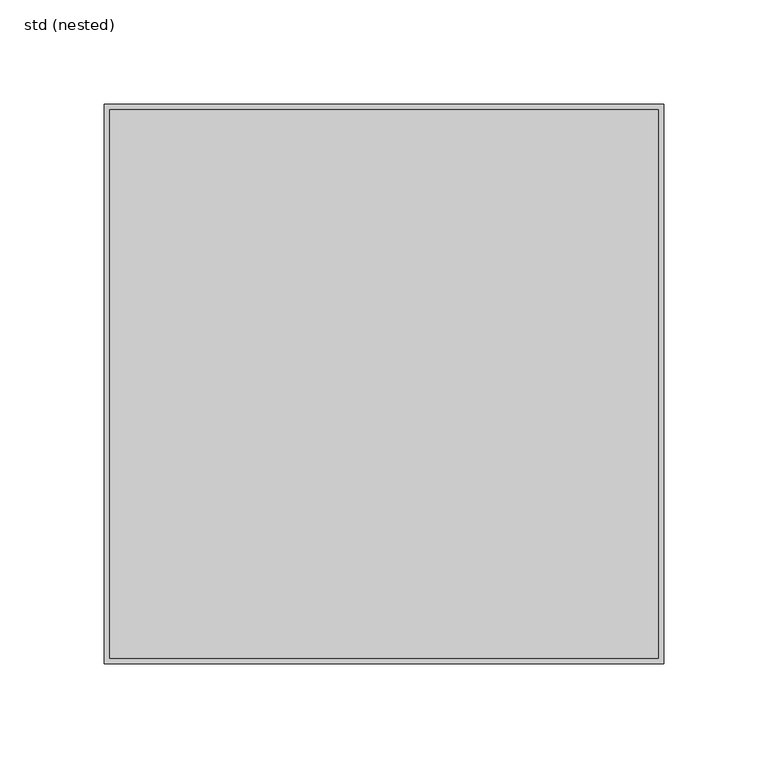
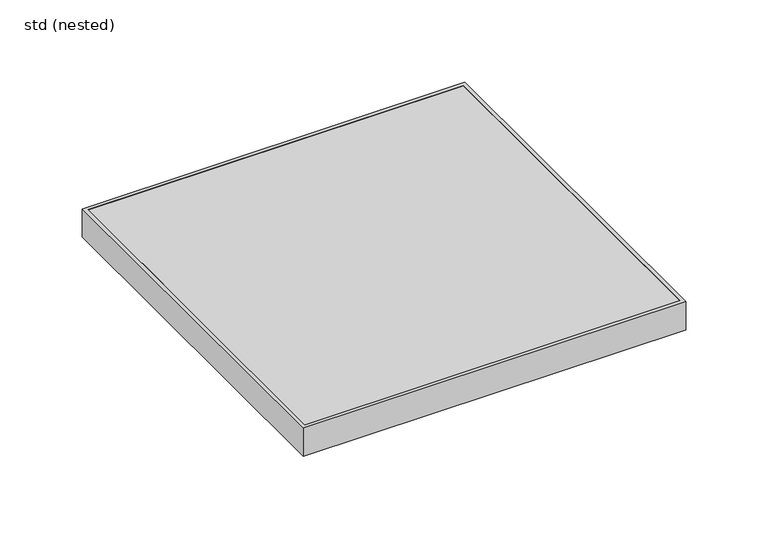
"""IFC4 building model written with IfcOpenShell, lengths in millimetres: sanitary terminal geometry, ZZZ_do not use_PF_ST_UN_square grating for hygienic gully_ACO : std (nested)."""

import ifcopenshell
import ifcopenshell.guid

model = None  # the IFC model being written
_history = None  # IfcOwnerHistory: only IFC2X3 demands one
_inside = {}  # id of a spatial element -> (the spatial element, [elements in it])
_under = {}  # id of a project, library or spatial element -> (it, [spatial elements below it])
_declared = {}  # id of a project -> (the project, [libraries it declares])
_typed = {}  # id of a type object -> (the type object, [elements of that type])
_made_of = {}  # id of a material, layer set ... -> (it, [elements and type objects made of it])


def new_model(schema):
    """Start an empty IFC model of exactly this schema.

    Asked for "IFC4X3", IfcOpenShell would pick the latest addendum, in which some entities
    have other attributes; the version numbers below select the first issue.
    IFC2X3 requires an IfcOwnerHistory on every rooted entity: one is made here for all.
    """
    global model, _history
    if schema == "IFC4X3":
        model = ifcopenshell.file(schema_version=(4, 3, 0, 0))
    else:
        model = ifcopenshell.file(schema=schema)
    _inside.clear()
    _under.clear()
    _declared.clear()
    _typed.clear()
    _made_of.clear()
    _history = None
    if model.schema == "IFC2X3":
        org = make("IfcOrganization", Name="unknown")
        user = make(
            "IfcPersonAndOrganization",
            ThePerson=make("IfcPerson", FamilyName="unknown"),
            TheOrganization=org,
        )
        app = make(
            "IfcApplication",
            ApplicationDeveloper=org,
            Version="unknown",
            ApplicationFullName="unknown",
            ApplicationIdentifier="unknown",
        )
        _history = make(
            "IfcOwnerHistory",
            OwningUser=user,
            OwningApplication=app,
            ChangeAction="ADDED",
            CreationDate=0,
        )
    return model


def make(cls, **values):
    """One entity of the class cls with the attributes given. An attribute that is None is left unset."""
    return model.create_entity(
        cls, **{name: value for name, value in values.items() if value is not None}
    )


def rooted(cls, **values):
    """An entity with a GlobalId (a new one), such as an element, a storey or a relation."""
    return make(cls, GlobalId=ifcopenshell.guid.new(), OwnerHistory=_history, **values)


def si_unit(unit_type, name, prefix=None):
    """IfcSIUnit, for example si_unit("LENGTHUNIT", "METRE", prefix="MILLI")."""
    return make("IfcSIUnit", UnitType=unit_type, Prefix=prefix, Name=name)


def assignment(units):
    """IfcUnitAssignment: the units of a project."""
    return None if units is None else make("IfcUnitAssignment", Units=units)


def point(xyz):
    """IfcCartesianPoint."""
    return None if xyz is None else make("IfcCartesianPoint", Coordinates=xyz)


def direction(xyz):
    """IfcDirection."""
    return None if xyz is None else make("IfcDirection", DirectionRatios=xyz)


def frame(location, z_axis=None, x_axis=None):
    """IfcAxis2Placement3D, a coordinate frame: its origin and axes. An axis left out is left unset."""
    return make(
        "IfcAxis2Placement3D",
        Location=point(location),
        Axis=direction(z_axis),
        RefDirection=direction(x_axis),
    )


def origin():
    """The frame at (0, 0, 0) with its axes left unset."""
    return frame((0.0, 0.0, 0.0))


def place(relative_to, where):
    """IfcLocalPlacement: puts the frame where relative to a parent placement (None: the world)."""
    return make(
        "IfcLocalPlacement", PlacementRelTo=relative_to, RelativePlacement=where
    )


def context(
    kind, dimensions, precision=None, world=None, true_north=None, identifier=None
):
    """IfcGeometricRepresentationContext, for example the 3D "Model" context."""
    return make(
        "IfcGeometricRepresentationContext",
        ContextIdentifier=identifier,
        ContextType=kind,
        CoordinateSpaceDimension=dimensions,
        Precision=precision,
        WorldCoordinateSystem=world,
        TrueNorth=true_north,
    )


def project(units=None, contexts=None):
    """IfcProject with its units and contexts."""
    return rooted(
        "IfcProject",
        Name="project",
        RepresentationContexts=contexts,
        UnitsInContext=assignment(units),
    )


def spatial(cls, under=None, at=None, **own):
    """A site, building, storey or space (cls), placed at a placement, below another one or the project."""
    s = rooted(cls, ObjectPlacement=at, **own)
    if under is not None:
        _under.setdefault(under.id(), (under, []))[1].append(s)
    return s


def polyline(points):
    """IfcPolyline through the points."""
    return make("IfcPolyline", Points=[point(p) for p in points])


def outline(outer, holes=None, kind="AREA"):
    """IfcArbitraryClosedProfileDef: a profile drawn as a closed curve; with holes, ...WithVoids."""
    if holes is None:
        return make("IfcArbitraryClosedProfileDef", ProfileType=kind, OuterCurve=outer)
    return make(
        "IfcArbitraryProfileDefWithVoids",
        ProfileType=kind,
        OuterCurve=outer,
        InnerCurves=holes,
    )


def extrude(swept, where, along, depth):
    """IfcExtrudedAreaSolid: the profile swept, set in the frame where, extruded along a direction by depth."""
    return make(
        "IfcExtrudedAreaSolid",
        SweptArea=swept,
        Position=where,
        ExtrudedDirection=direction(along),
        Depth=depth,
    )


def shape(context_of_items, identifier, shape_type, items):
    """IfcShapeRepresentation: the items that make up one representation, for example the "Body"."""
    return make(
        "IfcShapeRepresentation",
        ContextOfItems=context_of_items,
        RepresentationIdentifier=identifier,
        RepresentationType=shape_type,
        Items=items,
    )


def source(mapping_origin, context_of_items, identifier, shape_type, items):
    """IfcRepresentationMap: a shape defined once, which mapped items show again and again."""
    return make(
        "IfcRepresentationMap",
        MappingOrigin=mapping_origin,
        MappedRepresentation=shape(context_of_items, identifier, shape_type, items),
    )


def transform(
    local_origin,
    x_axis=None,
    y_axis=None,
    z_axis=None,
    scale=None,
    scale2=None,
    scale3=None,
    uniform=True,
):
    """IfcCartesianTransformationOperator3D, or its non-uniform kind. x_axis, y_axis, z_axis: its Axis1, 2, 3."""
    if uniform:
        return make(
            "IfcCartesianTransformationOperator3D",
            Axis1=direction(x_axis),
            Axis2=direction(y_axis),
            LocalOrigin=point(local_origin),
            Scale=scale,
            Axis3=direction(z_axis),
        )
    return make(
        "IfcCartesianTransformationOperator3DnonUniform",
        Axis1=direction(x_axis),
        Axis2=direction(y_axis),
        LocalOrigin=point(local_origin),
        Scale=scale,
        Axis3=direction(z_axis),
        Scale2=scale2,
        Scale3=scale3,
    )


def mapped(mapping_source, mapping_target):
    """IfcMappedItem: shows the shape of a source again, moved by a transform."""
    return make(
        "IfcMappedItem", MappingSource=mapping_source, MappingTarget=mapping_target
    )


def made_of(thing, what):
    """Note that an element or type object is made of a material, layer set ...; save() writes the relation."""
    if what is not None:
        _made_of.setdefault(what.id(), (what, []))[1].append(thing)
    return thing


def element(
    cls,
    number,
    at=None,
    inside=None,
    cuts=None,
    type_object=None,
    material=None,
    context=None,
    identifier="Body",
    shape_type=None,
    held_by="IfcProductDefinitionShape",
    body=None,
    shapes=None,
    **own,
):
    """One element of the class cls, such as IfcWall. Its Tag is "e" and its number.

    at: its placement. inside: the storey or other place that contains it. cuts: it is an
    opening in that element (IfcRelVoidsElement). A single representation is given by context,
    identifier, shape_type and body (its items); several are given by shapes. held_by: the class
    of the entity that holds the representations. save() writes the other relations.
    """
    e = rooted(cls, Tag="e%d" % number, ObjectPlacement=at, **own)
    if body is not None:
        shapes = [shape(context, identifier, shape_type, body)]
    if shapes is not None:
        e.Representation = make(held_by, Representations=shapes)
    if inside is not None:
        _inside.setdefault(inside.id(), (inside, []))[1].append(e)
    if cuts is not None:
        rooted(
            "IfcRelVoidsElement", RelatingBuildingElement=cuts, RelatedOpeningElement=e
        )
    if type_object is not None:
        _typed.setdefault(type_object.id(), (type_object, []))[1].append(e)
    return made_of(e, material)


def aggregate(whole, parts):
    """IfcRelAggregates: a whole, such as a stair, and the parts it consists of."""
    return rooted("IfcRelAggregates", RelatingObject=whole, RelatedObjects=parts)


def save(model, path):
    """Write the relations noted so far, then the file.

    IfcRelAggregates (storeys below a building ...), IfcRelContainedInSpatialStructure (elements
    in a storey), IfcRelDefinesByType, IfcRelAssociatesMaterial and IfcRelDeclares: one each for
    every whole, place, type object, material and project.
    """
    for whole, parts in _under.values():
        aggregate(whole, parts)
    for where, things in _inside.values():
        rooted(
            "IfcRelContainedInSpatialStructure",
            RelatedElements=things,
            RelatingStructure=where,
        )
    for kind, things in _typed.values():
        rooted("IfcRelDefinesByType", RelatedObjects=things, RelatingType=kind)
    for what, things in _made_of.values():
        rooted("IfcRelAssociatesMaterial", RelatedObjects=things, RelatingMaterial=what)
    for by, libraries in _declared.values():
        rooted("IfcRelDeclares", RelatingContext=by, RelatedDefinitions=libraries)
    model.write(path)


def std_nested_a31448ca(model_context):
    return source(origin(), model_context, "Body", "SweptSolid", [
        extrude(outline(polyline([(134.0, 134.0), (134.0, -134.0), (-134.0, -134.0), (-134.0, 134.0), (134.0, 134.0)]), holes=[polyline([(131.5, 131.5), (-131.5, 131.5), (-131.5, -131.5), (131.5, -131.5), (131.5, 131.5)])]), frame((0.0, 0.0, -21.0), z_axis=(0.0, 0.0, 1.0), x_axis=(1.0, 0.0, 0.0)), (0.0, 0.0, 1.0), 21.0),
        extrude(outline(polyline([(131.5, 131.5), (131.5, -131.5), (-131.5, -131.5), (-131.5, 131.5), (131.5, 131.5)])), frame((0.0, 0.0, -20.0), z_axis=(0.0, 0.0, 1.0), x_axis=(1.0, 0.0, 0.0)), (0.0, 0.0, 1.0), 20.0),
    ])


if __name__ == "__main__":
    model = new_model("IFC4")
    model_context = context("Model", 3, world=origin())
    ifc_project = project(units=[si_unit("LENGTHUNIT", "METRE", prefix="MILLI")], contexts=[model_context])
    site = spatial("IfcSite", under=ifc_project)
    building = spatial("IfcBuilding", under=site)
    placement = place(None, origin())
    std_nested_shape = std_nested_a31448ca(model_context)
    element("IfcSanitaryTerminal", 1, ObjectType="ZZZ_do not use_PF_ST_UN_square grating for hygienic gully_ACO : std (nested)", at=placement, inside=building, context=model_context, shape_type="MappedRepresentation", body=[
        mapped(std_nested_shape, transform((0.0, 0.0, 0.0), x_axis=(1.0, 0.0, 0.0), y_axis=(0.0, 1.0, 0.0), z_axis=(0.0, 0.0, 1.0))),
    ])
    save(model, "model.ifc")
